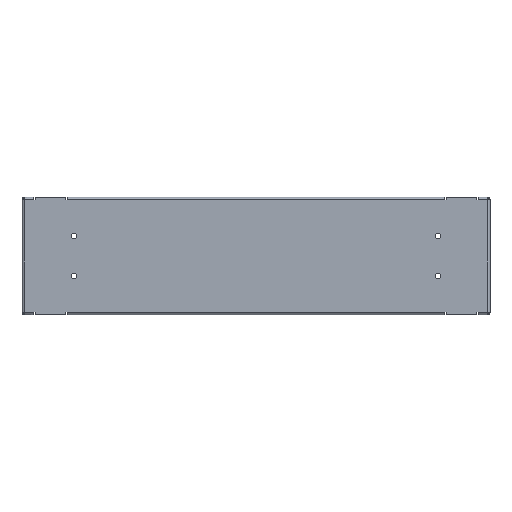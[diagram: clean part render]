
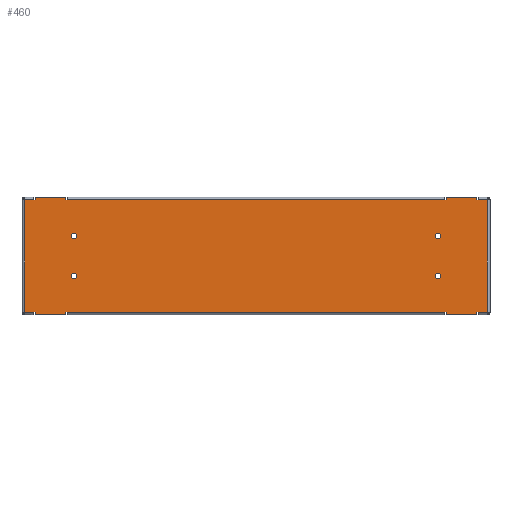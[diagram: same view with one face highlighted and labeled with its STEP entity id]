
A CAD part, top view. The second image highlights one B-rep face of the part: STEP entity #460.
In plain terms, the highlighted planar face has unit normal (0, 0, 1).
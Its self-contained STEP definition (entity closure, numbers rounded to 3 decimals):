
#460=ADVANCED_FACE('',(#1854,#1856,#1858,#1860,#1862),#1864,.F.);
#1854=FACE_BOUND('',#1855,.T.);
#1855=EDGE_LOOP('',(#3238,#3239,#3240,#3241,#3242,#3243,#3244,#3245,#3246,#3247,
#3248,#3249,#3250,#3251,#3252,#3253,#3254,#3255,#3256,#3257,#3258,#3259,#3260,#3261,
#3262,#3263,#3264,#3265));
#1856=FACE_BOUND('',#1857,.T.);
#1857=EDGE_LOOP('',(#3266));
#1858=FACE_BOUND('',#1859,.T.);
#1859=EDGE_LOOP('',(#3267));
#1860=FACE_BOUND('',#1861,.T.);
#1861=EDGE_LOOP('',(#3268));
#1862=FACE_BOUND('',#1863,.T.);
#1863=EDGE_LOOP('',(#3269));
#1864=PLANE('',#1865);
#1865=AXIS2_PLACEMENT_3D('',#1866,#1867,#1868);
#1866=CARTESIAN_POINT('',(0.,0.,0.));
#1867=DIRECTION('',(0.,0.,-1.));
#1868=DIRECTION('',(-1.,0.,0.));
#3238=ORIENTED_EDGE('',*,*,#3938,.T.);
#3239=ORIENTED_EDGE('',*,*,#3837,.T.);
#3240=ORIENTED_EDGE('',*,*,#3821,.T.);
#3241=ORIENTED_EDGE('',*,*,#3939,.F.);
#3242=ORIENTED_EDGE('',*,*,#3940,.F.);
#3243=ORIENTED_EDGE('',*,*,#3941,.F.);
#3244=ORIENTED_EDGE('',*,*,#3823,.T.);
#3245=ORIENTED_EDGE('',*,*,#3829,.T.);
#3246=ORIENTED_EDGE('',*,*,#3813,.T.);
#3247=ORIENTED_EDGE('',*,*,#3942,.F.);
#3248=ORIENTED_EDGE('',*,*,#3943,.F.);
#3249=ORIENTED_EDGE('',*,*,#3944,.F.);
#3250=ORIENTED_EDGE('',*,*,#3815,.T.);
#3251=ORIENTED_EDGE('',*,*,#3831,.T.);
#3252=ORIENTED_EDGE('',*,*,#3945,.T.);
#3253=ORIENTED_EDGE('',*,*,#3946,.T.);
#3254=ORIENTED_EDGE('',*,*,#3947,.F.);
#3255=ORIENTED_EDGE('',*,*,#3948,.T.);
#3256=ORIENTED_EDGE('',*,*,#3949,.T.);
#3257=ORIENTED_EDGE('',*,*,#3950,.T.);
#3258=ORIENTED_EDGE('',*,*,#3882,.F.);
#3259=ORIENTED_EDGE('',*,*,#3890,.T.);
#3260=ORIENTED_EDGE('',*,*,#3951,.F.);
#3261=ORIENTED_EDGE('',*,*,#3952,.T.);
#3262=ORIENTED_EDGE('',*,*,#3953,.T.);
#3263=ORIENTED_EDGE('',*,*,#3954,.T.);
#3264=ORIENTED_EDGE('',*,*,#3886,.F.);
#3265=ORIENTED_EDGE('',*,*,#3894,.T.);
#3266=ORIENTED_EDGE('',*,*,#3793,.T.);
#3267=ORIENTED_EDGE('',*,*,#3795,.T.);
#3268=ORIENTED_EDGE('',*,*,#3807,.F.);
#3269=ORIENTED_EDGE('',*,*,#3809,.F.);
#3793=EDGE_CURVE('',#4167,#4167,#4168,.T.);
#3795=EDGE_CURVE('',#4171,#4171,#4172,.T.);
#3807=EDGE_CURVE('',#4195,#4195,#4196,.T.);
#3809=EDGE_CURVE('',#4199,#4199,#4200,.T.);
#3813=EDGE_CURVE('',#4208,#4206,#4209,.T.);
#3815=EDGE_CURVE('',#4211,#4212,#4213,.T.);
#3821=EDGE_CURVE('',#4224,#4222,#4225,.T.);
#3823=EDGE_CURVE('',#4227,#4228,#4229,.T.);
#3829=EDGE_CURVE('',#4228,#4208,#4239,.T.);
#3831=EDGE_CURVE('',#4212,#4241,#4242,.T.);
#3837=EDGE_CURVE('',#4252,#4224,#4253,.T.);
#3882=EDGE_CURVE('',#4324,#4320,#4326,.T.);
#3886=EDGE_CURVE('',#4332,#4328,#4334,.T.);
#3890=EDGE_CURVE('',#4324,#4339,#4341,.T.);
#3894=EDGE_CURVE('',#4332,#4346,#4348,.T.);
#3938=EDGE_CURVE('',#4346,#4252,#4420,.T.);
#3939=EDGE_CURVE('',#4421,#4222,#4422,.T.);
#3940=EDGE_CURVE('',#4423,#4421,#4424,.T.);
#3941=EDGE_CURVE('',#4227,#4423,#4425,.T.);
#3942=EDGE_CURVE('',#4426,#4206,#4427,.T.);
#3943=EDGE_CURVE('',#4428,#4426,#4429,.T.);
#3944=EDGE_CURVE('',#4211,#4428,#4430,.T.);
#3945=EDGE_CURVE('',#4241,#4431,#4432,.T.);
#3946=EDGE_CURVE('',#4431,#4433,#4434,.T.);
#3947=EDGE_CURVE('',#4435,#4433,#4436,.T.);
#3948=EDGE_CURVE('',#4435,#4437,#4438,.T.);
#3949=EDGE_CURVE('',#4437,#4439,#4440,.T.);
#3950=EDGE_CURVE('',#4439,#4320,#4441,.T.);
#3951=EDGE_CURVE('',#4442,#4339,#4443,.T.);
#3952=EDGE_CURVE('',#4442,#4444,#4445,.T.);
#3953=EDGE_CURVE('',#4444,#4446,#4447,.T.);
#3954=EDGE_CURVE('',#4446,#4328,#4448,.T.);
#4167=VERTEX_POINT('',#4779);
#4168=CIRCLE('',#4780,3.65);
#4171=VERTEX_POINT('',#4789);
#4172=CIRCLE('',#4790,3.65);
#4195=VERTEX_POINT('',#4849);
#4196=CIRCLE('',#4850,3.65);
#4199=VERTEX_POINT('',#4859);
#4200=CIRCLE('',#4860,3.65);
#4206=VERTEX_POINT('',#4874);
#4208=VERTEX_POINT('',#4878);
#4209=LINE('',#4879,#4880);
#4211=VERTEX_POINT('',#4885);
#4212=VERTEX_POINT('',#4886);
#4213=LINE('',#4887,#4888);
#4222=VERTEX_POINT('',#4906);
#4224=VERTEX_POINT('',#4910);
#4225=LINE('',#4911,#4912);
#4227=VERTEX_POINT('',#4917);
#4228=VERTEX_POINT('',#4918);
#4229=LINE('',#4919,#4920);
#4239=LINE('',#4942,#4943);
#4241=VERTEX_POINT('',#4949);
#4242=LINE('',#4950,#4951);
#4252=VERTEX_POINT('',#4988);
#4253=LINE('',#4989,#4990);
#4320=VERTEX_POINT('',#5184);
#4324=VERTEX_POINT('',#5192);
#4326=LINE('',#5196,#5197);
#4328=VERTEX_POINT('',#5200);
#4332=VERTEX_POINT('',#5208);
#4334=LINE('',#5212,#5213);
#4339=VERTEX_POINT('',#5224);
#4341=LINE('',#5229,#5230);
#4346=VERTEX_POINT('',#5241);
#4348=LINE('',#5259,#5260);
#4420=LINE('',#5435,#5436);
#4421=VERTEX_POINT('',#5438);
#4422=LINE('',#5439,#5440);
#4423=VERTEX_POINT('',#5442);
#4424=LINE('',#5443,#5444);
#4425=LINE('',#5446,#5447);
#4426=VERTEX_POINT('',#5449);
#4427=LINE('',#5450,#5451);
#4428=VERTEX_POINT('',#5453);
#4429=LINE('',#5454,#5455);
#4430=LINE('',#5457,#5458);
#4431=VERTEX_POINT('',#5460);
#4432=LINE('',#5461,#5462);
#4433=VERTEX_POINT('',#5464);
#4434=LINE('',#5465,#5466);
#4435=VERTEX_POINT('',#5468);
#4436=LINE('',#5469,#5470);
#4437=VERTEX_POINT('',#5472);
#4438=LINE('',#5473,#5474);
#4439=VERTEX_POINT('',#5476);
#4440=LINE('',#5477,#5478);
#4441=LINE('',#5480,#5481);
#4442=VERTEX_POINT('',#5483);
#4443=LINE('',#5484,#5485);
#4444=VERTEX_POINT('',#5487);
#4445=LINE('',#5488,#5489);
#4446=VERTEX_POINT('',#5491);
#4447=LINE('',#5492,#5493);
#4448=LINE('',#5495,#5496);
#4779=CARTESIAN_POINT('',(-224.35,-25.,0.));
#4780=AXIS2_PLACEMENT_3D('',#4781,#4782,#4783);
#4781=CARTESIAN_POINT('',(-228.,-25.,0.));
#4782=DIRECTION('',(0.,0.,-1.));
#4783=DIRECTION('',(1.,0.,0.));
#4789=CARTESIAN_POINT('',(231.65,-25.,0.));
#4790=AXIS2_PLACEMENT_3D('',#4791,#4792,#4793);
#4791=CARTESIAN_POINT('',(228.,-25.,0.));
#4792=DIRECTION('',(0.,0.,-1.));
#4793=DIRECTION('',(1.,0.,0.));
#4849=CARTESIAN_POINT('',(-224.35,25.,0.));
#4850=AXIS2_PLACEMENT_3D('',#4851,#4852,#4853);
#4851=CARTESIAN_POINT('',(-228.,25.,0.));
#4852=DIRECTION('',(0.,0.,1.));
#4853=DIRECTION('',(-1.,0.,0.));
#4859=CARTESIAN_POINT('',(231.65,25.,0.));
#4860=AXIS2_PLACEMENT_3D('',#4861,#4862,#4863);
#4861=CARTESIAN_POINT('',(228.,25.,0.));
#4862=DIRECTION('',(0.,0.,1.));
#4863=DIRECTION('',(-1.,0.,0.));
#4874=CARTESIAN_POINT('',(238.2,-70.3,0.));
#4878=CARTESIAN_POINT('',(236.2,-70.3,0.));
#4879=CARTESIAN_POINT('',(236.2,-70.3,0.));
#4880=VECTOR('',#4881,1.);
#4881=DIRECTION('',(1.,0.,0.));
#4885=CARTESIAN_POINT('',(276.2,-70.3,0.));
#4886=CARTESIAN_POINT('',(278.2,-70.3,0.));
#4887=CARTESIAN_POINT('',(276.2,-70.3,0.));
#4888=VECTOR('',#4889,1.);
#4889=DIRECTION('',(1.,0.,0.));
#4906=CARTESIAN_POINT('',(-276.2,-70.3,0.));
#4910=CARTESIAN_POINT('',(-278.2,-70.3,0.));
#4911=CARTESIAN_POINT('',(-278.2,-70.3,0.));
#4912=VECTOR('',#4913,1.);
#4913=DIRECTION('',(1.,0.,0.));
#4917=CARTESIAN_POINT('',(-238.2,-70.3,0.));
#4918=CARTESIAN_POINT('',(-236.2,-70.3,0.));
#4919=CARTESIAN_POINT('',(-238.2,-70.3,0.));
#4920=VECTOR('',#4921,1.);
#4921=DIRECTION('',(1.,0.,0.));
#4942=CARTESIAN_POINT('',(-236.2,-70.3,0.));
#4943=VECTOR('',#4944,1.);
#4944=DIRECTION('',(1.,0.,0.));
#4949=CARTESIAN_POINT('',(290.,-70.3,0.));
#4950=CARTESIAN_POINT('',(278.2,-70.3,0.));
#4951=VECTOR('',#4952,1.);
#4952=DIRECTION('',(1.,0.,0.));
#4988=CARTESIAN_POINT('',(-290.,-70.3,0.));
#4989=CARTESIAN_POINT('',(-290.,-70.3,0.));
#4990=VECTOR('',#4991,1.);
#4991=DIRECTION('',(1.,0.,0.));
#5184=CARTESIAN_POINT('',(238.2,70.3,0.));
#5192=CARTESIAN_POINT('',(236.2,70.3,0.));
#5196=CARTESIAN_POINT('',(236.2,70.3,0.));
#5197=VECTOR('',#5198,1.);
#5198=DIRECTION('',(1.,0.,0.));
#5200=CARTESIAN_POINT('',(-276.2,70.3,0.));
#5208=CARTESIAN_POINT('',(-278.2,70.3,0.));
#5212=CARTESIAN_POINT('',(-278.2,70.3,0.));
#5213=VECTOR('',#5214,1.);
#5214=DIRECTION('',(1.,0.,0.));
#5224=CARTESIAN_POINT('',(-236.2,70.3,0.));
#5229=CARTESIAN_POINT('',(236.2,70.3,0.));
#5230=VECTOR('',#5231,1.);
#5231=DIRECTION('',(-1.,0.,0.));
#5241=CARTESIAN_POINT('',(-290.,70.3,0.));
#5259=CARTESIAN_POINT('',(-278.2,70.3,0.));
#5260=VECTOR('',#5261,1.);
#5261=DIRECTION('',(-1.,0.,0.));
#5435=CARTESIAN_POINT('',(-290.,70.3,0.));
#5436=VECTOR('',#5437,1.);
#5437=DIRECTION('',(0.,-1.,0.));
#5438=CARTESIAN_POINT('',(-276.2,-73.5,0.));
#5439=CARTESIAN_POINT('',(-276.2,-73.5,0.));
#5440=VECTOR('',#5441,1.);
#5441=DIRECTION('',(0.,1.,0.));
#5442=CARTESIAN_POINT('',(-238.2,-73.5,0.));
#5443=CARTESIAN_POINT('',(-238.2,-73.5,0.));
#5444=VECTOR('',#5445,1.);
#5445=DIRECTION('',(-1.,0.,0.));
#5446=CARTESIAN_POINT('',(-238.2,-70.3,0.));
#5447=VECTOR('',#5448,1.);
#5448=DIRECTION('',(0.,-1.,0.));
#5449=CARTESIAN_POINT('',(238.2,-73.5,0.));
#5450=CARTESIAN_POINT('',(238.2,-73.5,0.));
#5451=VECTOR('',#5452,1.);
#5452=DIRECTION('',(0.,1.,0.));
#5453=CARTESIAN_POINT('',(276.2,-73.5,0.));
#5454=CARTESIAN_POINT('',(276.2,-73.5,0.));
#5455=VECTOR('',#5456,1.);
#5456=DIRECTION('',(-1.,0.,0.));
#5457=CARTESIAN_POINT('',(276.2,-70.3,0.));
#5458=VECTOR('',#5459,1.);
#5459=DIRECTION('',(0.,-1.,0.));
#5460=CARTESIAN_POINT('',(290.,70.3,0.));
#5461=CARTESIAN_POINT('',(290.,-70.3,0.));
#5462=VECTOR('',#5463,1.);
#5463=DIRECTION('',(0.,1.,0.));
#5464=CARTESIAN_POINT('',(278.2,70.3,0.));
#5465=CARTESIAN_POINT('',(290.,70.3,0.));
#5466=VECTOR('',#5467,1.);
#5467=DIRECTION('',(-1.,0.,0.));
#5468=CARTESIAN_POINT('',(276.2,70.3,0.));
#5469=CARTESIAN_POINT('',(276.2,70.3,0.));
#5470=VECTOR('',#5471,1.);
#5471=DIRECTION('',(1.,0.,0.));
#5472=CARTESIAN_POINT('',(276.2,73.5,0.));
#5473=CARTESIAN_POINT('',(276.2,70.3,0.));
#5474=VECTOR('',#5475,1.);
#5475=DIRECTION('',(0.,1.,0.));
#5476=CARTESIAN_POINT('',(238.2,73.5,0.));
#5477=CARTESIAN_POINT('',(276.2,73.5,0.));
#5478=VECTOR('',#5479,1.);
#5479=DIRECTION('',(-1.,0.,0.));
#5480=CARTESIAN_POINT('',(238.2,73.5,0.));
#5481=VECTOR('',#5482,1.);
#5482=DIRECTION('',(0.,-1.,0.));
#5483=CARTESIAN_POINT('',(-238.2,70.3,0.));
#5484=CARTESIAN_POINT('',(-238.2,70.3,0.));
#5485=VECTOR('',#5486,1.);
#5486=DIRECTION('',(1.,0.,0.));
#5487=CARTESIAN_POINT('',(-238.2,73.5,0.));
#5488=CARTESIAN_POINT('',(-238.2,70.3,0.));
#5489=VECTOR('',#5490,1.);
#5490=DIRECTION('',(0.,1.,0.));
#5491=CARTESIAN_POINT('',(-276.2,73.5,0.));
#5492=CARTESIAN_POINT('',(-238.2,73.5,0.));
#5493=VECTOR('',#5494,1.);
#5494=DIRECTION('',(-1.,0.,0.));
#5495=CARTESIAN_POINT('',(-276.2,73.5,0.));
#5496=VECTOR('',#5497,1.);
#5497=DIRECTION('',(0.,-1.,0.));
